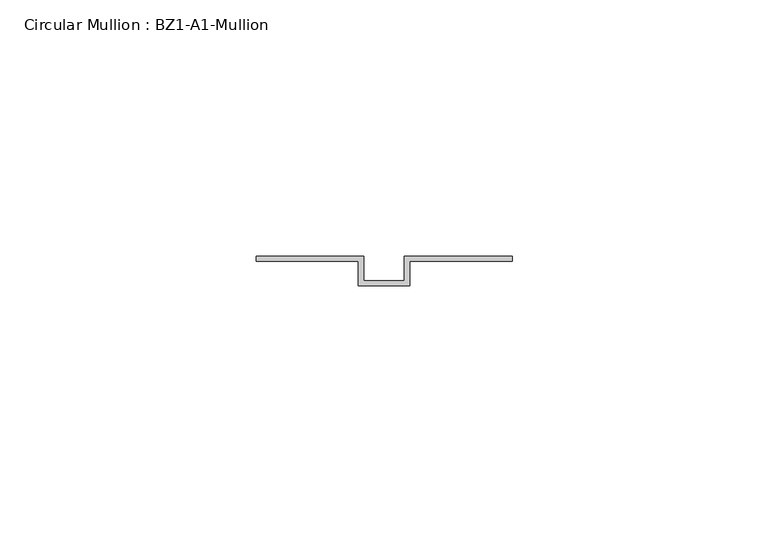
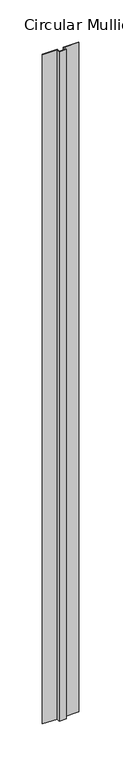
"""IFC4 building model written with IfcOpenShell, lengths in millimetres: member geometry, Circular Mullion : BZ1-A1-Mullion."""

from ifc_helpers import new_model, si_unit, frame, origin, place, context, project, spatial, polyline, outline, extrude, source, transform, mapped, element, save


def circular_mullion_bz1_a1_mullion_63dcf2e5(model_context):
    return source(origin(), model_context, "Body", "SweptSolid", [
        extrude(outline(polyline([(-25.0, 11.0), (-4.0, 11.0), (-4.0, 6.2), (4.0, 6.2), (4.0, 11.0), (25.0, 11.0), (25.0, 10.0), (5.0, 10.0), (5.0, 5.2), (-5.0, 5.2), (-5.0, 10.0), (-25.0, 10.0), (-25.0, 11.0)])), frame((0.0, 0.0, -971.8734041), z_axis=(0.0, 0.0, 1.0), x_axis=(1.0, 0.0, 0.0)), (0.0, 0.0, 1.0), 971.8734041),
    ])


if __name__ == "__main__":
    model = new_model("IFC4")
    model_context = context("Model", 3, world=origin())
    ifc_project = project(units=[si_unit("LENGTHUNIT", "METRE", prefix="MILLI")], contexts=[model_context])
    site = spatial("IfcSite", under=ifc_project)
    building = spatial("IfcBuilding", under=site)
    placement = place(None, origin())
    circular_mullion_bz1_a1_mullion_shape = circular_mullion_bz1_a1_mullion_63dcf2e5(model_context)
    element("IfcMember", 1, ObjectType="Circular Mullion : BZ1-A1-Mullion", at=placement, inside=building, context=model_context, shape_type="MappedRepresentation", body=[
        mapped(circular_mullion_bz1_a1_mullion_shape, transform((0.0, 0.0, 0.0), x_axis=(1.0, 0.0, 0.0), y_axis=(0.0, 1.0, 0.0), z_axis=(0.0, 0.0, 1.0))),
    ])
    save(model, "model.ifc")
